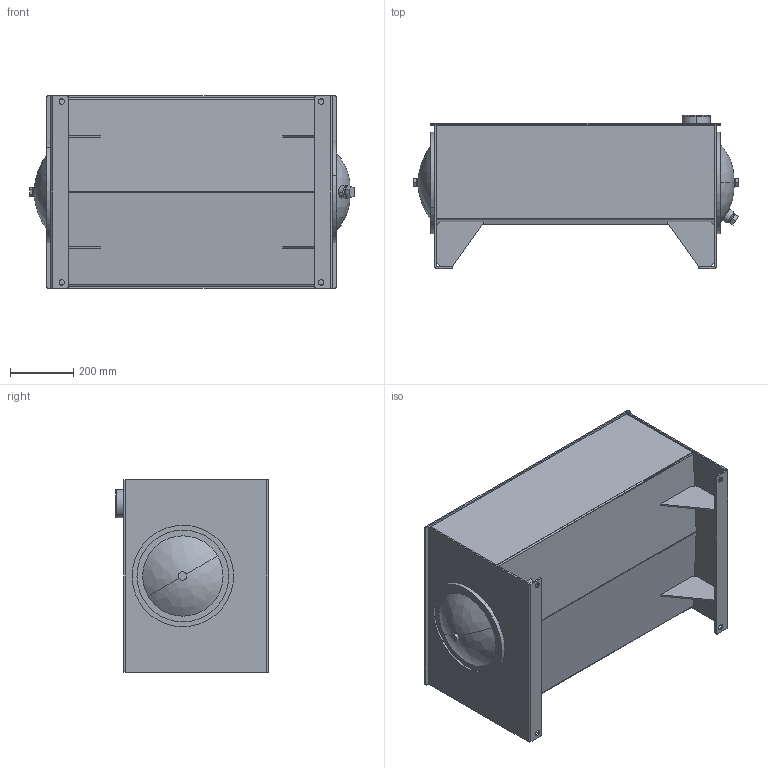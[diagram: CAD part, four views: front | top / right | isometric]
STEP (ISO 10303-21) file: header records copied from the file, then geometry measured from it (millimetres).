
FILE_DESCRIPTION (( 'STEP AP214' ), '1' );
FILE_NAME ('T2-30.STEP', '2019-07-30T18:59:07', ( '' ), ( '' ), 'SwSTEP 2.0', 'SolidWorks 2013', '' );
FILE_SCHEMA (( 'AUTOMOTIVE_DESIGN' ));
Length unit declared in the file: inch
Products named in the file (17): TL-EC-12; 12.00 END COVER; TL-ECD-12; DRAIN; 12.00 END COVER WITH DRAIN; CRUSH WASHER; 12.00 GASKET; 0.625 - 11 BAFFLE NUT; 0.625 - 11 HEX BOLT; FILLER RISER; T2-30-GST; T2-30-BFL; T2-30-BDY; T2-30-EB; T2-30-EA; T2-30-LD; T2-30
Assembly tree (23 placements, depth 3):
  T2-30
    T2-30-LD
    T2-30-EA
    T2-30-EB
    T2-30-BDY
    T2-30-BFL
    T2-30-GST  x4
    FILLER RISER
    TL-ECD-12
      0.625 - 11 HEX BOLT
      0.625 - 11 BAFFLE NUT
      12.00 GASKET
      CRUSH WASHER
      12.00 END COVER WITH DRAIN
      DRAIN
    TL-EC-12
      12.00 END COVER
      12.00 GASKET
      CRUSH WASHER
      0.625 - 11 HEX BOLT
      0.625 - 11 BAFFLE NUT
Bounding box: 1026.65 x 482.6 x 609.6 mm (x, y, z)
Volume: 10990921 mm3; surface area: 5447486.3 mm2
Topology: 22 solids, 22 shells, 293 faces, 672 edges, 432 vertices
Faces by surface type: plane 166, cylinder 109, bspline 8, cone 8, torus 2
Entity records: 8489 total; most frequent: CARTESIAN_POINT 1438, DIRECTION 1234, ORIENTED_EDGE 1068, EDGE_CURVE 534, AXIS2_PLACEMENT_3D 462, VERTEX_POINT 340, LINE 310, VECTOR 310
